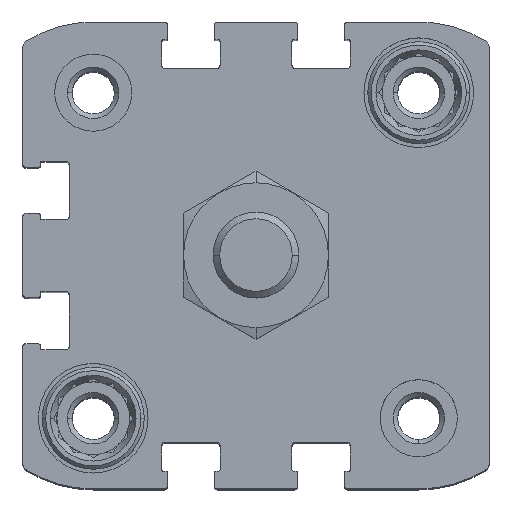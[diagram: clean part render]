
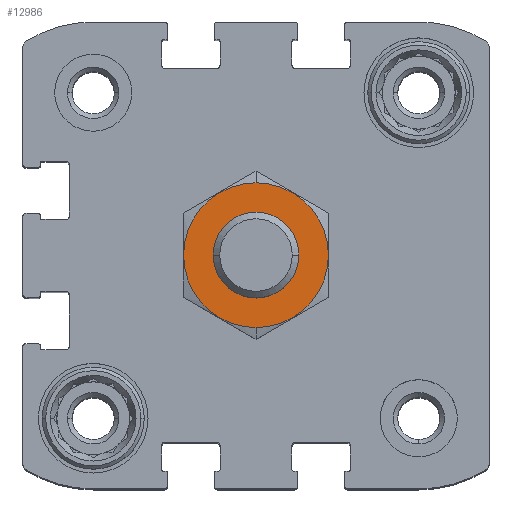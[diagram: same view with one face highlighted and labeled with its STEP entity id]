
A CAD part, top view. The second image highlights one B-rep face of the part: STEP entity #12986.
In plain terms, the highlighted planar face has unit normal (0, 0, 1).
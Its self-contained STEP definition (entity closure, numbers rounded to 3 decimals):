
#143 = CARTESIAN_POINT ( 'NONE',  ( 0., 0., 15.8 ) ) ;
#214 = CARTESIAN_POINT ( 'NONE',  ( 0., -5., 15.8 ) ) ;
#218 = DIRECTION ( 'NONE',  ( 0., 0., -1. ) ) ;
#742 = CARTESIAN_POINT ( 'NONE',  ( 0., 0., 15.8 ) ) ;
#867 = EDGE_LOOP ( 'NONE', ( #17365, #6215 ) ) ;
#1342 = CARTESIAN_POINT ( 'NONE',  ( 0., 0., 15.8 ) ) ;
#1597 = DIRECTION ( 'NONE',  ( 0., 0., -1. ) ) ;
#1724 = DIRECTION ( 'NONE',  ( 0., 1., 0. ) ) ;
#1844 = DIRECTION ( 'NONE',  ( 0., 1., 0. ) ) ;
#2777 = DIRECTION ( 'NONE',  ( 0., 0., -1. ) ) ;
#2926 = VERTEX_POINT ( 'NONE', #214 ) ;
#3307 = EDGE_CURVE ( 'NONE', #16731, #15744, #6164, .T. ) ;
#4087 = EDGE_CURVE ( 'NONE', #15744, #16731, #13852, .T. ) ;
#4445 = AXIS2_PLACEMENT_3D ( 'NONE', #5796, #13894, #1844 ) ;
#4525 = DIRECTION ( 'NONE',  ( 0., 1., 0. ) ) ;
#4591 = VERTEX_POINT ( 'NONE', #11208 ) ;
#5012 = CIRCLE ( 'NONE', #4445, 5. ) ;
#5554 = DIRECTION ( 'NONE',  ( 0., 1., 0. ) ) ;
#5796 = CARTESIAN_POINT ( 'NONE',  ( 0., 0., 15.8 ) ) ;
#6046 = EDGE_LOOP ( 'NONE', ( #16982, #13632 ) ) ;
#6164 = CIRCLE ( 'NONE', #15693, 8.45 ) ;
#6195 = EDGE_CURVE ( 'NONE', #4591, #2926, #17077, .T. ) ;
#6215 = ORIENTED_EDGE ( 'NONE', *, *, #3307, .F. ) ;
#7586 = AXIS2_PLACEMENT_3D ( 'NONE', #143, #2777, #13609 ) ;
#8246 = CARTESIAN_POINT ( 'NONE',  ( 0., 0., 15.8 ) ) ;
#8683 = AXIS2_PLACEMENT_3D ( 'NONE', #742, #13766, #4525 ) ;
#9531 = EDGE_CURVE ( 'NONE', #2926, #4591, #5012, .T. ) ;
#9569 = FACE_OUTER_BOUND ( 'NONE', #867, .T. ) ;
#9723 = CARTESIAN_POINT ( 'NONE',  ( 0., 8.45, 15.8 ) ) ;
#11059 = FACE_BOUND ( 'NONE', #6046, .T. ) ;
#11208 = CARTESIAN_POINT ( 'NONE',  ( 0., 5., 15.8 ) ) ;
#12986 = ADVANCED_FACE ( 'NONE', ( #9569, #11059 ), #16395, .F. ) ;
#13609 = DIRECTION ( 'NONE',  ( 0., 1., 0. ) ) ;
#13632 = ORIENTED_EDGE ( 'NONE', *, *, #6195, .T. ) ;
#13766 = DIRECTION ( 'NONE',  ( 0., 0., -1. ) ) ;
#13852 = CIRCLE ( 'NONE', #14423, 8.45 ) ;
#13894 = DIRECTION ( 'NONE',  ( 0., 0., -1. ) ) ;
#14091 = CARTESIAN_POINT ( 'NONE',  ( 0., -8.45, 15.8 ) ) ;
#14423 = AXIS2_PLACEMENT_3D ( 'NONE', #8246, #218, #1724 ) ;
#15693 = AXIS2_PLACEMENT_3D ( 'NONE', #1342, #1597, #5554 ) ;
#15744 = VERTEX_POINT ( 'NONE', #9723 ) ;
#16395 = PLANE ( 'NONE',  #7586 ) ;
#16731 = VERTEX_POINT ( 'NONE', #14091 ) ;
#16982 = ORIENTED_EDGE ( 'NONE', *, *, #9531, .T. ) ;
#17077 = CIRCLE ( 'NONE', #8683, 5. ) ;
#17365 = ORIENTED_EDGE ( 'NONE', *, *, #4087, .F. ) ;
